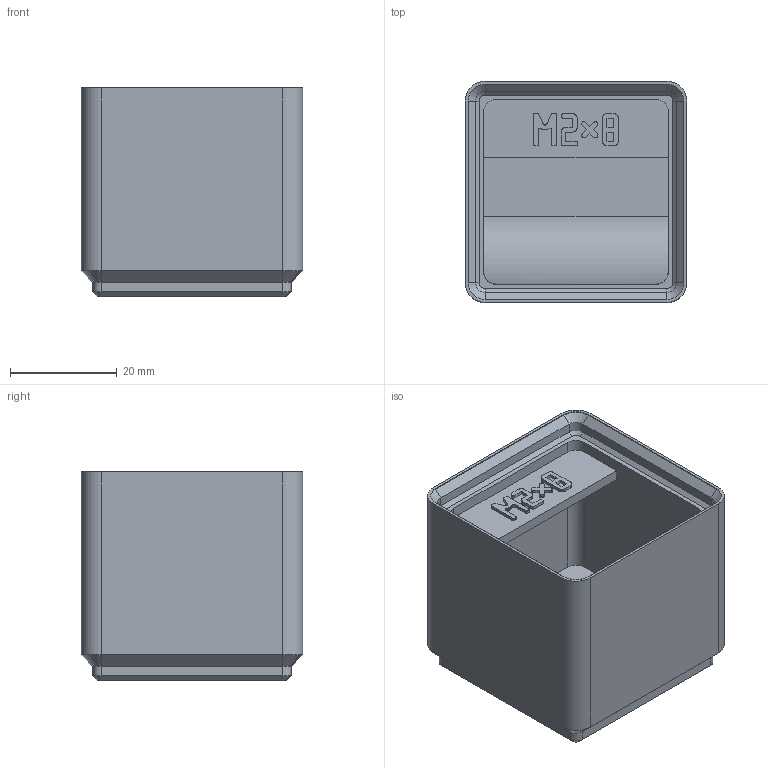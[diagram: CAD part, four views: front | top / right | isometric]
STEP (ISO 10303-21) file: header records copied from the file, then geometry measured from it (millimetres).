
FILE_DESCRIPTION(('Open CASCADE Model'),'2;1');
FILE_NAME('m2-screw-8','2026-11-17T16:07:50',('Author'),('Open CASCADE') ,'Open CASCADE STEP processor 8.0','build123d','Unknown');
FILE_SCHEMA(('AUTOMOTIVE_DESIGN { 1 0 10303 214 1 1 1 1 }'));
Length unit declared in the file: millimetre
Products named in the file (1): m2-screw-8
Bounding box: 41.5 x 41.5 x 39 mm (x, y, z)
Volume: 30858.5 mm3; surface area: 13668.4 mm2
Topology: 1 solids, 1 shells, 489 faces, 1389 edges, 910 vertices
Faces by surface type: plane 450, cylinder 22, cone 16, extrusion 1
Entity records: 32972 total; most frequent: CARTESIAN_POINT 6906, DIRECTION 4218, VECTOR 3118, LINE 3117, ORIENTED_EDGE 2778, PCURVE 2778, DEFINITIONAL_REPRESENTATION 2778, EDGE_CURVE 1389
